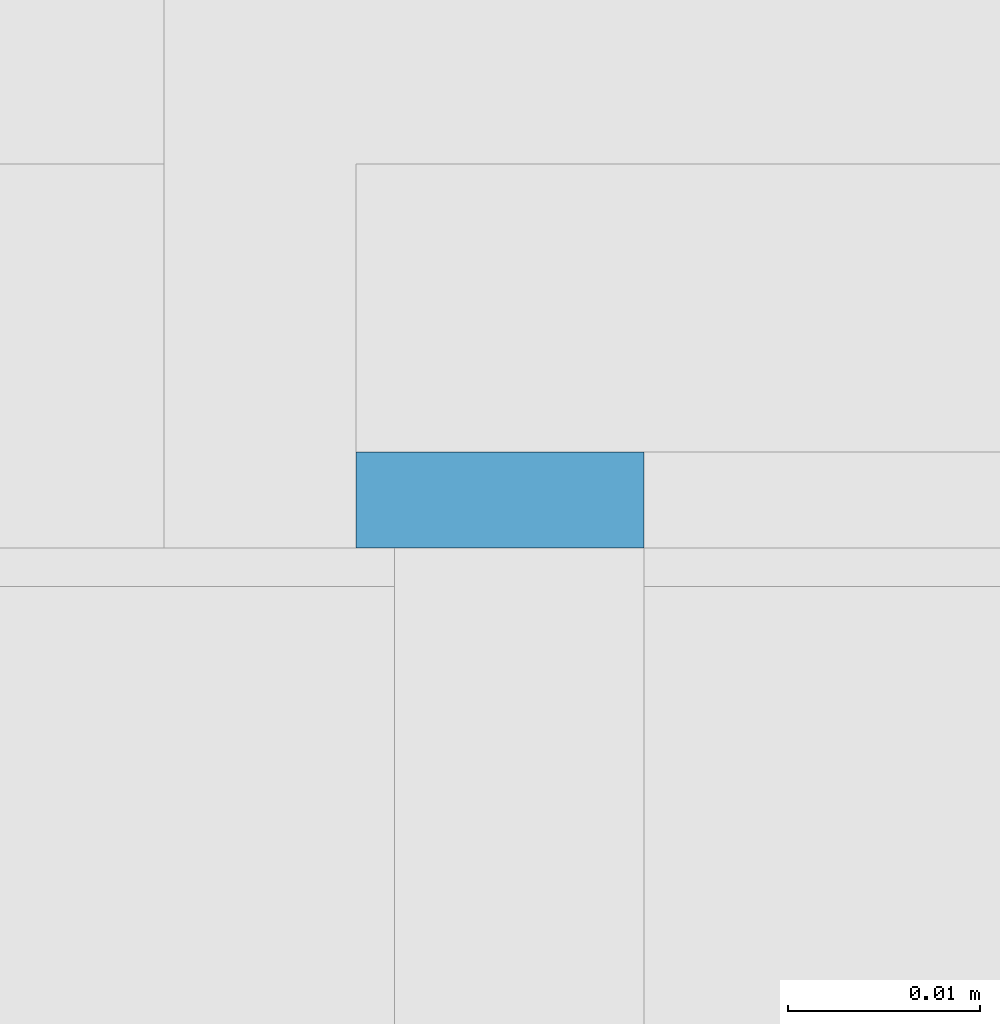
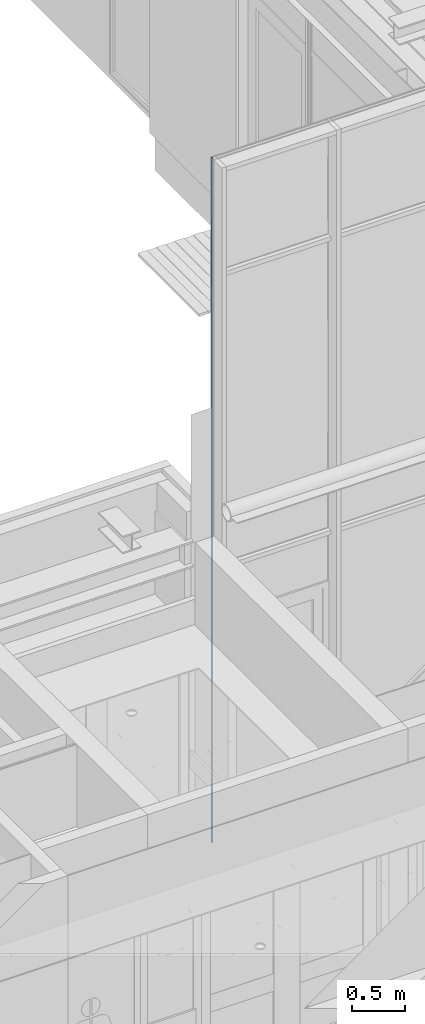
# One storey, part 95 of 347: 1 building element part, 1 element without a shape of its own.
"""IFC2X3 building model written with IfcOpenShell, lengths in millimetres."""

from ifc_helpers import new_model, entity, si_unit, converted_unit, derived_unit, money_unit, direction, frame, origin_with_axes, place, context, subcontext, project, spatial, faceted_brep, material, type_object, element, aggregate, save


model = new_model("IFC2X3")

# Units and contexts
model_context = context("Model", 3, precision=0.01, world=origin_with_axes(), true_north=direction((0.0, 1.0)))
plan_context = context("Plan", 3, precision=0.01, world=origin_with_axes(), true_north=direction((0.0, 1.0)))
body_context = subcontext(model_context, "Body", "Model", "MODEL_VIEW")
ifc_project = project(units=[si_unit("LENGTHUNIT", "METRE", prefix="MILLI"), si_unit("AREAUNIT", "SQUARE_METRE"), si_unit("VOLUMEUNIT", "CUBIC_METRE"), converted_unit("PLANEANGLEUNIT", "DEGREE", entity("IfcPlaneAngleMeasure", 0.0174532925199), si_unit("PLANEANGLEUNIT", "RADIAN"), dimensions=[0, 0, 0, 0, 0, 0, 0]), money_unit("EUR"), converted_unit("TIMEUNIT", "Year", entity("IfcTimeMeasure", 31556926.0), si_unit("TIMEUNIT", "SECOND"), dimensions=[0, 0, 1, 0, 0, 0, 0]), si_unit("MASSUNIT", "GRAM", prefix="KILO"), si_unit("THERMODYNAMICTEMPERATUREUNIT", "DEGREE_CELSIUS"), si_unit("LUMINOUSINTENSITYUNIT", "LUMEN"), si_unit("ENERGYUNIT", "JOULE", prefix="MEGA"), derived_unit("THERMALCONDUCTANCEUNIT", [(si_unit("POWERUNIT", "WATT"), 1), (si_unit("LENGTHUNIT", "METRE"), -1), (si_unit("THERMODYNAMICTEMPERATUREUNIT", "KELVIN"), -1)]), derived_unit("SPECIFICHEATCAPACITYUNIT", [(si_unit("ENERGYUNIT", "JOULE"), 1), (si_unit("MASSUNIT", "GRAM", prefix="KILO"), -1), (si_unit("THERMODYNAMICTEMPERATUREUNIT", "KELVIN"), -1)]), derived_unit("MASSDENSITYUNIT", [(si_unit("MASSUNIT", "GRAM", prefix="KILO"), 1), (si_unit("VOLUMEUNIT", "CUBIC_METRE"), -1)])], contexts=[model_context, plan_context])

# Site, building, storey
site_placement = place(None, origin_with_axes())
site = spatial("IfcSite", under=ifc_project, at=site_placement, Name="Site", CompositionType="ELEMENT")
building_placement = place(site_placement, origin_with_axes())
building = spatial("IfcBuilding", under=site, at=building_placement, Name="Naam gebouw", CompositionType="ELEMENT")
storey_placement = place(building_placement, origin_with_axes())
storey = spatial("IfcBuildingStorey", under=building, at=storey_placement, Name="begane grond", CompositionType="ELEMENT", Elevation=0.0)

# Column, building element part
column_type = type_object("IfcColumnType", Name="31 vliesgevelstijl 50 x 215", PredefinedType="COLUMN")
column_placement = place(storey_placement, frame((18650.0, 18400.0, 0.0), z_axis=(0.0, 0.0, 1.0), x_axis=(1.0, 0.0, 0.0)))
column = element("IfcColumn", 1, at=column_placement, inside=storey, type_object=column_type, Name="28_kolom ø 275mm", ObjectType="COLUMN")
ifc_material = material(Name="Membraan - rubber")
building_element_part_placement = place(column_placement, origin_with_axes())
building_element_part = element("IfcBuildingElementPart", 2, at=building_element_part_placement, material=ifc_material, Name="Membraan - rubber", context=body_context, shape_type="Brep", body=[
    faceted_brep([(-9.99999992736, 200.000000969, 4943.31140313), (-9.99999992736, 194.999999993, 4943.31140313), (-9.99999992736, 194.999999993, 4902.00000651), (-9.99999992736, 200.000000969, 4902.00000651), (-25.0, 200.000000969, 4944.19294246), (-25.0, 194.999999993, 4944.19294246), (-22.9999999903, 194.999999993, 4944.07540389), (-22.9999999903, 195.000000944, 0.0), (-9.99999992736, 195.000000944, 0.0), (-9.99999992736, 194.999999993, 4900.000005), (-20.0001698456, 194.999999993, 4900.000005), (-20.0001698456, 194.999999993, 4902.00000651), (-20.0001698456, 200.000000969, 4902.00000651), (-20.0001698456, 200.000000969, 4900.000005), (-9.99999992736, 200.000000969, 4900.000005), (-9.99999992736, 200.000000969, 0.0), (-25.0, 200.000000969, 0.0), (-25.0, 195.000000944, 0.0)], [[[0, 1, 2, 3]], [[1, 0, 4, 5, 6]], [[1, 6, 7, 8, 9, 10, 11, 2]], [[12, 3, 2, 11]], [[4, 0, 3, 12, 13, 14, 15, 16]], [[5, 4, 16, 17]], [[6, 5, 17, 7]], [[15, 8, 7, 17, 16]], [[14, 9, 8, 15]], [[9, 14, 13, 10]], [[13, 12, 11, 10]]]),
    faceted_brep([(-9.99999992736, 194.999999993, 4945.29407303), (-9.99999992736, 200.000000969, 4945.29407303), (-9.99999992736, 200.000000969, 7840.0), (-9.99999992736, 195.000000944, 7840.0), (-25.0, 200.000000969, 4946.17631706), (-22.9999999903, 194.999999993, 4946.05868452), (-25.0, 194.999999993, 4946.17631706), (-25.0, 200.000000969, 7840.0), (-25.0, 195.000000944, 7840.0), (-22.9999999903, 195.000000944, 7840.0)], [[[0, 1, 2, 3]], [[4, 1, 0, 5, 6]], [[1, 4, 7, 2]], [[3, 2, 7, 8, 9]], [[5, 0, 3, 9]], [[6, 5, 9, 8]], [[4, 6, 8, 7]]]),
])
aggregate(column, [building_element_part])

save(model, "model.ifc")
